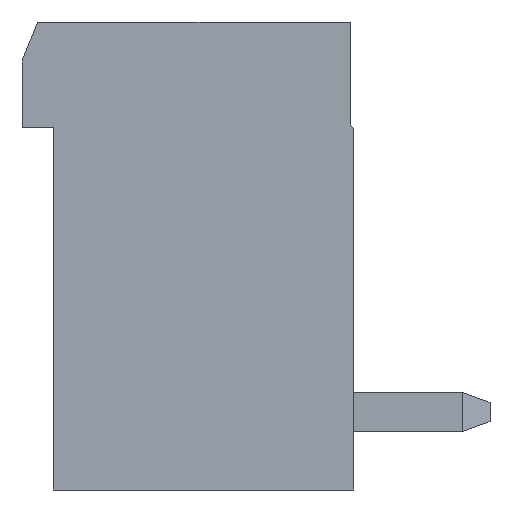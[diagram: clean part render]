
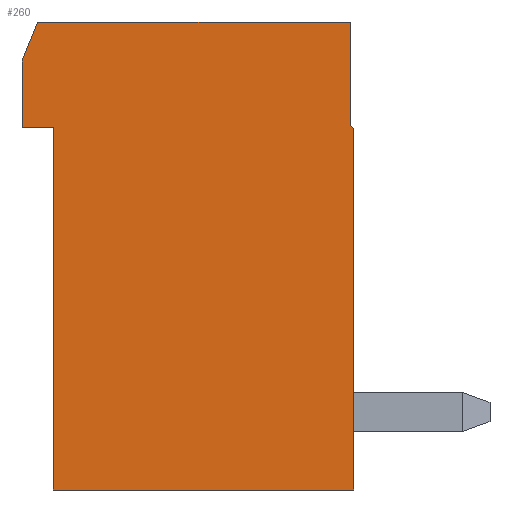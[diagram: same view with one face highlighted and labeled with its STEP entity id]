
A CAD part, left-side view. The second image highlights one B-rep face of the part: STEP entity #260.
In plain terms, the highlighted planar face has unit normal (-1, 0, 0).
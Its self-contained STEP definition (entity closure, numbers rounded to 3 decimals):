
#29 = VERTEX_POINT ( 'NONE', #663 ) ;
#98 = VERTEX_POINT ( 'NONE', #1305 ) ;
#150 = ORIENTED_EDGE ( 'NONE', *, *, #952, .F. ) ;
#260 = ADVANCED_FACE ( 'NONE', ( #1618 ), #2129, .F. ) ;
#323 = LINE ( 'NONE', #3160, #1748 ) ;
#366 = CARTESIAN_POINT ( 'NONE',  ( -11., 0., 3.27 ) ) ;
#481 = DIRECTION ( 'NONE',  ( 0., -0.371, 0.928 ) ) ;
#486 = EDGE_CURVE ( 'NONE', #29, #1181, #4137, .T. ) ;
#515 = CARTESIAN_POINT ( 'NONE',  ( -11., 0.08, 3.337 ) ) ;
#516 = CARTESIAN_POINT ( 'NONE',  ( -11., 0.08, 3.337 ) ) ;
#517 = DIRECTION ( 'NONE',  ( 0., 1., 0. ) ) ;
#633 = DIRECTION ( 'NONE',  ( 0., 0., -1. ) ) ;
#663 = CARTESIAN_POINT ( 'NONE',  ( -11., 8.5, 3.3 ) ) ;
#674 = DIRECTION ( 'NONE',  ( 0., 1., 0. ) ) ;
#764 = DIRECTION ( 'NONE',  ( 0., 0., -1. ) ) ;
#891 = VERTEX_POINT ( 'NONE', #2188 ) ;
#916 = VERTEX_POINT ( 'NONE', #2829 ) ;
#952 = EDGE_CURVE ( 'NONE', #98, #1355, #2579, .T. ) ;
#1086 = LINE ( 'NONE', #2414, #2509 ) ;
#1094 = EDGE_CURVE ( 'NONE', #891, #29, #1086, .T. ) ;
#1101 = CARTESIAN_POINT ( 'NONE',  ( -11., 0., -6. ) ) ;
#1181 = VERTEX_POINT ( 'NONE', #4077 ) ;
#1275 = DIRECTION ( 'NONE',  ( 0., 0., -1. ) ) ;
#1305 = CARTESIAN_POINT ( 'NONE',  ( -11., 8.1, 6. ) ) ;
#1355 = VERTEX_POINT ( 'NONE', #3791 ) ;
#1378 = VECTOR ( 'NONE', #633, 1000. ) ;
#1379 = EDGE_CURVE ( 'NONE', #2512, #891, #2208, .T. ) ;
#1495 = ORIENTED_EDGE ( 'NONE', *, *, #2053, .F. ) ;
#1549 = DIRECTION ( 'NONE',  ( 0., 0., 1. ) ) ;
#1618 = FACE_OUTER_BOUND ( 'NONE', #2941, .T. ) ;
#1748 = VECTOR ( 'NONE', #1275, 1000. ) ;
#1948 = CARTESIAN_POINT ( 'NONE',  ( -11., 8.1, 6. ) ) ;
#1999 = LINE ( 'NONE', #3605, #4008 ) ;
#2053 = EDGE_CURVE ( 'NONE', #1355, #2777, #323, .T. ) ;
#2129 = PLANE ( 'NONE',  #2131 ) ;
#2131 = AXIS2_PLACEMENT_3D ( 'NONE', #2418, #2451, #764 ) ;
#2188 = CARTESIAN_POINT ( 'NONE',  ( -11., 7.7, 3.3 ) ) ;
#2208 = LINE ( 'NONE', #2427, #2236 ) ;
#2236 = VECTOR ( 'NONE', #2854, 1000. ) ;
#2277 = DIRECTION ( 'NONE',  ( 0., -1., 0. ) ) ;
#2379 = CARTESIAN_POINT ( 'NONE',  ( -11., 7.7, -6. ) ) ;
#2397 = ORIENTED_EDGE ( 'NONE', *, *, #1379, .F. ) ;
#2414 = CARTESIAN_POINT ( 'NONE',  ( -11., 7.7, 3.3 ) ) ;
#2418 = CARTESIAN_POINT ( 'NONE',  ( -11., 0., 0. ) ) ;
#2427 = CARTESIAN_POINT ( 'NONE',  ( -11., 7.7, -6. ) ) ;
#2451 = DIRECTION ( 'NONE',  ( 1., 0., 0. ) ) ;
#2494 = CARTESIAN_POINT ( 'NONE',  ( -11., 0., 3.27 ) ) ;
#2509 = VECTOR ( 'NONE', #517, 1000. ) ;
#2512 = VERTEX_POINT ( 'NONE', #2379 ) ;
#2523 = VECTOR ( 'NONE', #2277, 1000. ) ;
#2533 = EDGE_CURVE ( 'NONE', #916, #2512, #3360, .T. ) ;
#2579 = LINE ( 'NONE', #1948, #2523 ) ;
#2738 = ORIENTED_EDGE ( 'NONE', *, *, #4031, .F. ) ;
#2777 = VERTEX_POINT ( 'NONE', #515 ) ;
#2829 = CARTESIAN_POINT ( 'NONE',  ( -11., 0., -6. ) ) ;
#2832 = ORIENTED_EDGE ( 'NONE', *, *, #3142, .F. ) ;
#2843 = ORIENTED_EDGE ( 'NONE', *, *, #3593, .F. ) ;
#2854 = DIRECTION ( 'NONE',  ( 0., 0., 1. ) ) ;
#2866 = LINE ( 'NONE', #366, #1378 ) ;
#2911 = ORIENTED_EDGE ( 'NONE', *, *, #2533, .F. ) ;
#2941 = EDGE_LOOP ( 'NONE', ( #2843, #2738, #1495, #150, #2832, #4188, #4176, #2397, #2911 ) ) ;
#3113 = LINE ( 'NONE', #516, #3205 ) ;
#3142 = EDGE_CURVE ( 'NONE', #1181, #98, #1999, .T. ) ;
#3160 = CARTESIAN_POINT ( 'NONE',  ( -11., 0.08, 6. ) ) ;
#3205 = VECTOR ( 'NONE', #3882, 1000. ) ;
#3360 = LINE ( 'NONE', #1101, #3444 ) ;
#3444 = VECTOR ( 'NONE', #674, 1000. ) ;
#3593 = EDGE_CURVE ( 'NONE', #4241, #916, #2866, .T. ) ;
#3605 = CARTESIAN_POINT ( 'NONE',  ( -11., 8.5, 5. ) ) ;
#3774 = CARTESIAN_POINT ( 'NONE',  ( -11., 8.5, 3.3 ) ) ;
#3791 = CARTESIAN_POINT ( 'NONE',  ( -11., 0.08, 6. ) ) ;
#3882 = DIRECTION ( 'NONE',  ( 0., -0.766, -0.643 ) ) ;
#4008 = VECTOR ( 'NONE', #481, 1000. ) ;
#4031 = EDGE_CURVE ( 'NONE', #2777, #4241, #3113, .T. ) ;
#4077 = CARTESIAN_POINT ( 'NONE',  ( -11., 8.5, 5. ) ) ;
#4137 = LINE ( 'NONE', #3774, #4177 ) ;
#4176 = ORIENTED_EDGE ( 'NONE', *, *, #1094, .F. ) ;
#4177 = VECTOR ( 'NONE', #1549, 1000. ) ;
#4188 = ORIENTED_EDGE ( 'NONE', *, *, #486, .F. ) ;
#4241 = VERTEX_POINT ( 'NONE', #2494 ) ;
